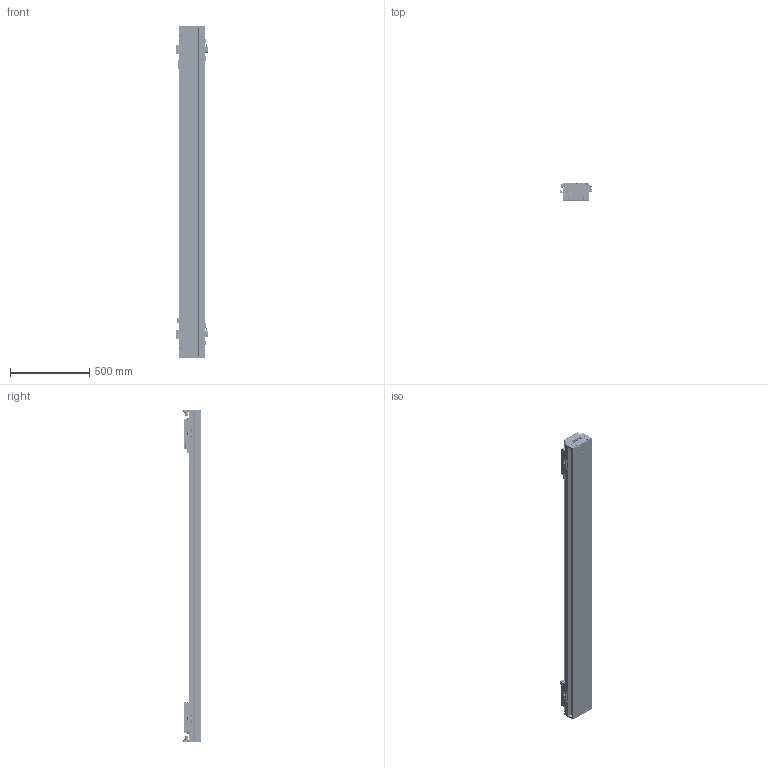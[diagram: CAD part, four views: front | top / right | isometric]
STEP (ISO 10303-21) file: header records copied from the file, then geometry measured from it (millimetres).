
FILE_DESCRIPTION (( 'STEP AP203' ), '1' );
FILE_NAME ('DKW168-2×C2-W090（T1580-L005-0.2）.STEP', '2022-03-08T01:17:26', ( '微软用户' ), ( '微软中国' ), 'SwSTEP 2.0', 'SolidWorks 2018', '' );
FILE_SCHEMA (( 'CONFIG_CONTROL_DESIGN' ));
Length unit declared in the file: millimetre
Products named in the file (24): 10279-0001-006-00 嶺輸菜輸; DKW-SG-GYP-H-00 嫖萇覜茼え; DKW168 单轴模组-拉钢带组件; 10392-0001-001-00 菁釱; 嫖萇羲壽蚾饜极A; CKM01-W090-TRL280; MSA20絳寢; C2-W090_00; DKW168-RU-DTJ-00 RU2黍杅芛盓殤; 10279-0001-003-00 傷啣; DKW168-HXJ-ZJ-00 笢潔滅袉砎蝶; RUS嫖掑喜; DKW168-HXJ-00 遣喳砎蝶; DKW-GYP-ZJ-00 笢潔嫖萇覜茼え; Ru2; 10392-0001-002-00 詩湍裔啣; DKW-KGZ-ZJ-00 中间光电开关支架; pm-y65; 10392-0001-003-00 詩湍嶺輸; EE_SX674A; 10980-0001-003-00 嫖萇羲壽嘐隅釱; 10392-0001-004-00 詩湍揤輸; DKW168-2×C2-W090（T1580-L005-0.2）; 嫖萇羲壽蚾饜极
Assembly tree (39 placements, depth 3):
  DKW168-2×C2-W090（T1580-L005-0.2）
    10392-0001-001-00 菁釱
    MSA20絳寢  x2
    DKW168 单轴模组-拉钢带组件
      10279-0001-003-00 傷啣  x2
      DKW168-HXJ-00 遣喳砎蝶  x4
      10392-0001-002-00 詩湍裔啣
      10392-0001-003-00 詩湍嶺輸  x2
      10392-0001-004-00 詩湍揤輸  x2
      10279-0001-006-00 嶺輸菜輸  x2
    CKM01-W090-TRL280
    DKW168-RU-DTJ-00 RU2黍杅芛盓殤  x2
    RUS嫖掑喜
    Ru2  x2
    嫖萇羲壽蚾饜极
      pm-y65  x2
      10980-0001-003-00 嫖萇羲壽嘐隅釱
    DKW-SG-GYP-H-00 嫖萇覜茼え  x2
    嫖萇羲壽蚾饜极A
      pm-y65  x2
      10980-0001-003-00 嫖萇羲壽嘐隅釱
    C2-W090_00  x2
    DKW168-HXJ-ZJ-00 笢潔滅袉砎蝶
    DKW-GYP-ZJ-00 笢潔嫖萇覜茼え
    DKW-KGZ-ZJ-00 中间光电开关支架
    EE_SX674A
Bounding box: 202.3 x 109 x 2100 mm (x, y, z)
Volume: 14789429.7 mm3; surface area: 3900595.2 mm2
Topology: 74 solids, 172 shells, 7546 faces, 19556 edges, 12497 vertices
Faces by surface type: plane 4084, cylinder 2092, cone 748, bspline 558, torus 32, sphere 32
Entity records: 146177 total; most frequent: CARTESIAN_POINT 46171, ORIENTED_EDGE 20291, DIRECTION 19353, EDGE_CURVE 10186, VERTEX_POINT 6608, AXIS2_PLACEMENT_3D 6479, LINE 6395, VECTOR 6395
